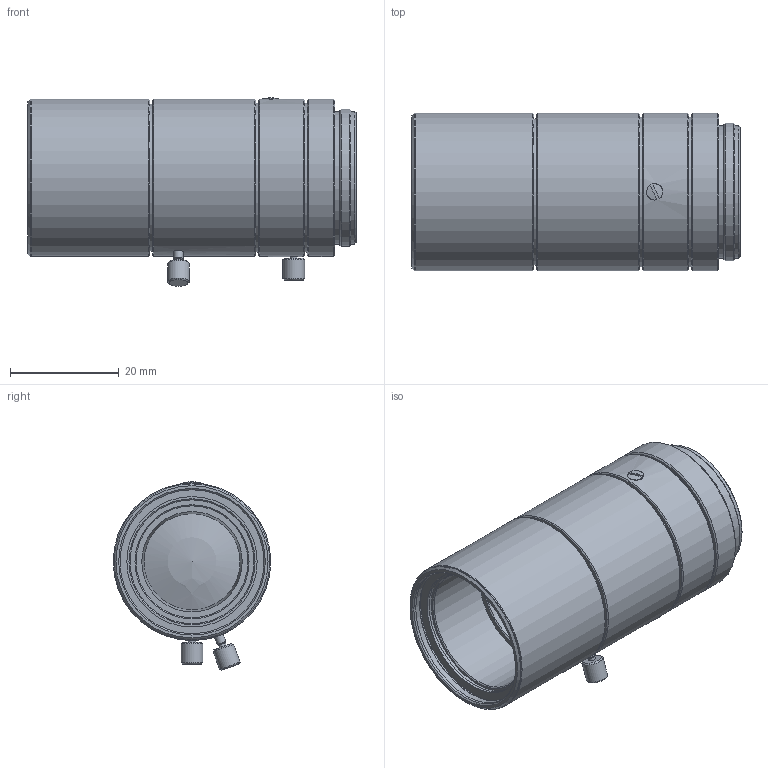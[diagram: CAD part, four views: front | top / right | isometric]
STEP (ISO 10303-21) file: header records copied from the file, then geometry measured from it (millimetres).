
FILE_DESCRIPTION(/* description */ ('Unknown'),/* implementation_level */ '2;1');
FILE_NAME(/* name */ 'M5028-MPW3_HP_251009_',/* time_stamp */ '2025-10-10T13:06:02+09:00',/* author */ ('Unknown'),/* organization */ ('Unknown'),/* preprocessor_version */ 'ST-DEVELOPER v18.102',/* originating_system */ 'Solid Edge',/* authorisation */ 'Unknown');
FILE_SCHEMA (('AUTOMOTIVE_DESIGN {1 0 10303 214 3 1 1}'));
Length unit declared in the file: millimetre
Products named in the file (3): M5028-MPW3_HP_251009_; M5028-MPW3_Infinity_251009_; M5028-MPW3_Mechanical Limit_251009_
Assembly tree (2 placements, depth 2):
  M5028-MPW3_HP_251009_
    M5028-MPW3_Infinity_251009_
    M5028-MPW3_Mechanical Limit_251009_
Bounding box: 60.5 x 29 x 34.71 mm (x, y, z)
Volume: 58250.1 mm3; surface area: 19967.1 mm2
Topology: 2 solids, 2 shells, 174 faces, 312 edges, 190 vertices
Faces by surface type: cylinder 58, cone 54, plane 54, sphere 8
Full cylindrical faces by diameter (mm): 1.3 x4, 1.7 x2, 4 x4, 9.9 x2, 13 x2, 13.5 x2, 17.7 x2, 19.5 x2, 20.6 x2, 22.5 x2, 22.8 x2, 23 x2, 24 x2, 24.4 x4, 25.3 x2, 26.5 x2, 27 x2, 27.5 x6, 29 x8
Entity records: 4865 total; most frequent: DIRECTION 698, CARTESIAN_POINT 601, ORIENTED_EDGE 368, AXIS2_PLACEMENT_3D 345, EDGE_LOOP 336, FACE_BOUND 336, EDGE_CURVE 184, VERTEX_POINT 176
